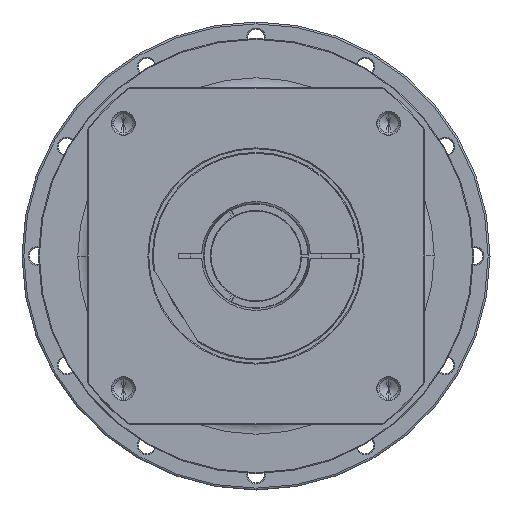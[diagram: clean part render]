
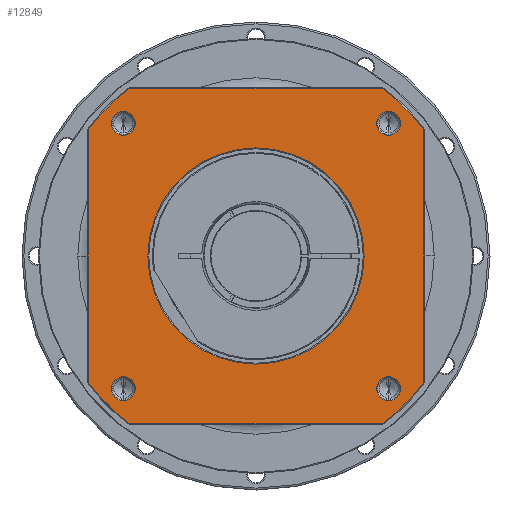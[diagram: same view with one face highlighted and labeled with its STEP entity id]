
A CAD part, left-side view. The second image highlights one B-rep face of the part: STEP entity #12849.
In plain terms, the highlighted planar face has unit normal (-1, 0, 0) as drawn and (0, 0, 1) by its records, which use the part's own axes.
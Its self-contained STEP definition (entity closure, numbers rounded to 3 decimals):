
#11577=DIRECTION('',(1.,0.,0.));
#11578=VECTOR('',#11577,134.666);
#11579=CARTESIAN_POINT('',(-67.333,-89.5,54.));
#11580=LINE('',#11579,#11578);
#11590=CARTESIAN_POINT('',(0.,0.,54.));
#11591=DIRECTION('',(0.,0.,-1.));
#11592=DIRECTION('',(0.,-1.,0.));
#11593=AXIS2_PLACEMENT_3D('',#11590,#11591,#11592);
#11595=CARTESIAN_POINT('',(0.,0.,
54.));
#11596=DIRECTION('',(0.,0.,-1.));
#11597=DIRECTION('',(0.,1.,0.));
#11598=AXIS2_PLACEMENT_3D('',#11595,#11596,#11597);
#11600=CARTESIAN_POINT('',(0.,0.,54.));
#11601=DIRECTION('',(0.,0.,1.));
#11602=DIRECTION('',(-0.799,-0.601,0.));
#11603=AXIS2_PLACEMENT_3D('',#11600,#11601,#11602);
#11615=DIRECTION('',(0.,-1.,0.));
#11616=VECTOR('',#11615,134.666);
#11617=CARTESIAN_POINT('',(-89.5,67.333,54.));
#11618=LINE('',#11617,#11616);
#11628=CARTESIAN_POINT('',(0.,0.,54.));
#11629=DIRECTION('',(0.,0.,1.));
#11630=DIRECTION('',(-0.601,0.799,0.));
#11631=AXIS2_PLACEMENT_3D('',#11628,#11629,#11630);
#11656=DIRECTION('',(-1.,0.,0.));
#11657=VECTOR('',#11656,134.666);
#11658=CARTESIAN_POINT('',(67.333,89.5,54.));
#11659=LINE('',#11658,#11657);
#11664=CARTESIAN_POINT('',(0.,0.,54.));
#11665=DIRECTION('',(0.,0.,1.));
#11666=DIRECTION('',(0.799,0.601,0.));
#11667=AXIS2_PLACEMENT_3D('',#11664,#11665,#11666);
#11679=DIRECTION('',(0.,1.,0.));
#11680=VECTOR('',#11679,134.666);
#11681=CARTESIAN_POINT('',(89.5,-67.333,54.));
#11682=LINE('',#11681,#11680);
#11784=CARTESIAN_POINT('',(0.,0.,54.));
#11785=DIRECTION('',(0.,0.,1.));
#11786=DIRECTION('',(0.601,-0.799,0.));
#11787=AXIS2_PLACEMENT_3D('',#11784,#11785,#11786);
#12066=CARTESIAN_POINT('',(-70.711,70.711,54.));
#12067=DIRECTION('',(0.,0.,1.));
#12068=DIRECTION('',(-1.,0.,0.));
#12069=AXIS2_PLACEMENT_3D('',#12066,#12067,#12068);
#12084=CARTESIAN_POINT('',(-70.711,70.711,54.));
#12085=DIRECTION('',(0.,0.,1.));
#12086=DIRECTION('',(1.,0.,0.));
#12087=AXIS2_PLACEMENT_3D('',#12084,#12085,#12086);
#12120=CARTESIAN_POINT('',(70.711,70.711,54.));
#12121=DIRECTION('',(0.,0.,1.));
#12122=DIRECTION('',(-1.,0.,0.));
#12123=AXIS2_PLACEMENT_3D('',#12120,#12121,#12122);
#12138=CARTESIAN_POINT('',(70.711,70.711,54.));
#12139=DIRECTION('',(0.,0.,1.));
#12140=DIRECTION('',(1.,0.,0.));
#12141=AXIS2_PLACEMENT_3D('',#12138,#12139,#12140);
#12174=CARTESIAN_POINT('',(70.711,-70.711,54.));
#12175=DIRECTION('',(0.,0.,1.));
#12176=DIRECTION('',(-1.,0.,0.));
#12177=AXIS2_PLACEMENT_3D('',#12174,#12175,#12176);
#12192=CARTESIAN_POINT('',(70.711,-70.711,54.));
#12193=DIRECTION('',(0.,0.,1.));
#12194=DIRECTION('',(1.,0.,0.));
#12195=AXIS2_PLACEMENT_3D('',#12192,#12193,#12194);
#12228=CARTESIAN_POINT('',(-70.711,-70.711,54.));
#12229=DIRECTION('',(0.,0.,1.));
#12230=DIRECTION('',(-1.,0.,0.));
#12231=AXIS2_PLACEMENT_3D('',#12228,#12229,#12230);
#12246=CARTESIAN_POINT('',(-70.711,-70.711,54.));
#12247=DIRECTION('',(0.,0.,1.));
#12248=DIRECTION('',(1.,0.,0.));
#12249=AXIS2_PLACEMENT_3D('',#12246,#12247,#12248);
#12290=CARTESIAN_POINT('',(89.5,-67.333,54.));
#12291=CARTESIAN_POINT('',(89.5,67.333,54.));
#12292=VERTEX_POINT('',#12290);
#12293=VERTEX_POINT('',#12291);
#12298=CARTESIAN_POINT('',(67.333,-89.5,54.));
#12299=VERTEX_POINT('',#12298);
#12302=CARTESIAN_POINT('',(-67.333,-89.5,54.));
#12303=VERTEX_POINT('',#12302);
#12306=CARTESIAN_POINT('',(-89.5,-67.333,54.));
#12307=VERTEX_POINT('',#12306);
#12310=CARTESIAN_POINT('',(-89.5,67.333,54.));
#12311=VERTEX_POINT('',#12310);
#12314=CARTESIAN_POINT('',(-67.333,89.5,54.));
#12315=VERTEX_POINT('',#12314);
#12318=CARTESIAN_POINT('',(67.333,89.5,54.));
#12319=VERTEX_POINT('',#12318);
#12368=CARTESIAN_POINT('',(-77.111,70.711,54.));
#12369=CARTESIAN_POINT('',(-64.311,70.711,54.));
#12370=VERTEX_POINT('',#12368);
#12371=VERTEX_POINT('',#12369);
#12402=CARTESIAN_POINT('',(77.111,70.711,54.));
#12403=CARTESIAN_POINT('',(64.311,70.711,54.));
#12404=VERTEX_POINT('',#12402);
#12405=VERTEX_POINT('',#12403);
#12410=CARTESIAN_POINT('',(77.111,-70.711,54.));
#12411=CARTESIAN_POINT('',(64.311,-70.711,54.));
#12412=VERTEX_POINT('',#12410);
#12413=VERTEX_POINT('',#12411);
#12418=CARTESIAN_POINT('',(-64.311,-70.711,54.));
#12419=CARTESIAN_POINT('',(-77.111,-70.711,54.));
#12420=VERTEX_POINT('',#12418);
#12421=VERTEX_POINT('',#12419);
#12426=CARTESIAN_POINT('',(0.,-57.65,54.));
#12427=CARTESIAN_POINT('',(0.,57.65,54.));
#12428=VERTEX_POINT('',#12426);
#12429=VERTEX_POINT('',#12427);
#12797=CARTESIAN_POINT('',(0.,0.,54.));
#12798=DIRECTION('',(0.,0.,1.));
#12799=DIRECTION('',(1.,0.,0.));
#12800=AXIS2_PLACEMENT_3D('',#12797,#12798,#12799);
#12801=PLANE('',#12800);
#12803=ORIENTED_EDGE('',*,*,#12802,.F.);
#12805=ORIENTED_EDGE('',*,*,#12804,.F.);
#12807=ORIENTED_EDGE('',*,*,#12806,.F.);
#12809=ORIENTED_EDGE('',*,*,#12808,.F.);
#12811=ORIENTED_EDGE('',*,*,#12810,.F.);
#12813=ORIENTED_EDGE('',*,*,#12812,.F.);
#12815=ORIENTED_EDGE('',*,*,#12814,.F.);
#12816=ORIENTED_EDGE('',*,*,#12787,.F.);
#12817=EDGE_LOOP('',(#12803,#12805,#12807,#12809,#12811,#12813,#12815,#12816));
#12818=FACE_OUTER_BOUND('',#12817,.F.);
#12820=ORIENTED_EDGE('',*,*,#12819,.F.);
#12822=ORIENTED_EDGE('',*,*,#12821,.F.);
#12823=EDGE_LOOP('',(#12820,#12822));
#12824=FACE_BOUND('',#12823,.F.);
#12826=ORIENTED_EDGE('',*,*,#12825,.T.);
#12828=ORIENTED_EDGE('',*,*,#12827,.T.);
#12829=EDGE_LOOP('',(#12826,#12828));
#12830=FACE_BOUND('',#12829,.F.);
#12832=ORIENTED_EDGE('',*,*,#12831,.T.);
#12834=ORIENTED_EDGE('',*,*,#12833,.T.);
#12835=EDGE_LOOP('',(#12832,#12834));
#12836=FACE_BOUND('',#12835,.F.);
#12838=ORIENTED_EDGE('',*,*,#12837,.T.);
#12840=ORIENTED_EDGE('',*,*,#12839,.T.);
#12841=EDGE_LOOP('',(#12838,#12840));
#12842=FACE_BOUND('',#12841,.F.);
#12844=ORIENTED_EDGE('',*,*,#12843,.T.);
#12846=ORIENTED_EDGE('',*,*,#12845,.T.);
#12847=EDGE_LOOP('',(#12844,#12846));
#12848=FACE_BOUND('',#12847,.F.);
#12849=ADVANCED_FACE('',(#12818,#12824,#12830,#12836,#12842,#12848),#12801,.T.);
#11594=CIRCLE('',#11593,57.65);
#11599=CIRCLE('',#11598,57.65);
#11604=CIRCLE('',#11603,112.);
#11632=CIRCLE('',#11631,112.);
#11668=CIRCLE('',#11667,112.);
#11788=CIRCLE('',#11787,112.);
#12070=CIRCLE('',#12069,6.4);
#12088=CIRCLE('',#12087,6.4);
#12124=CIRCLE('',#12123,6.4);
#12142=CIRCLE('',#12141,6.4);
#12178=CIRCLE('',#12177,6.4);
#12196=CIRCLE('',#12195,6.4);
#12232=CIRCLE('',#12231,6.4);
#12250=CIRCLE('',#12249,6.4);
#12787=EDGE_CURVE('',#12303,#12299,#11580,.T.);
#12802=EDGE_CURVE('',#12307,#12303,#11604,.T.);
#12804=EDGE_CURVE('',#12311,#12307,#11618,.T.);
#12806=EDGE_CURVE('',#12315,#12311,#11632,.T.);
#12808=EDGE_CURVE('',#12319,#12315,#11659,.T.);
#12810=EDGE_CURVE('',#12293,#12319,#11668,.T.);
#12812=EDGE_CURVE('',#12292,#12293,#11682,.T.);
#12814=EDGE_CURVE('',#12299,#12292,#11788,.T.);
#12819=EDGE_CURVE('',#12428,#12429,#11594,.T.);
#12821=EDGE_CURVE('',#12429,#12428,#11599,.T.);
#12825=EDGE_CURVE('',#12370,#12371,#12070,.T.);
#12827=EDGE_CURVE('',#12371,#12370,#12088,.T.);
#12831=EDGE_CURVE('',#12405,#12404,#12124,.T.);
#12833=EDGE_CURVE('',#12404,#12405,#12142,.T.);
#12837=EDGE_CURVE('',#12413,#12412,#12178,.T.);
#12839=EDGE_CURVE('',#12412,#12413,#12196,.T.);
#12843=EDGE_CURVE('',#12421,#12420,#12232,.T.);
#12845=EDGE_CURVE('',#12420,#12421,#12250,.T.);
